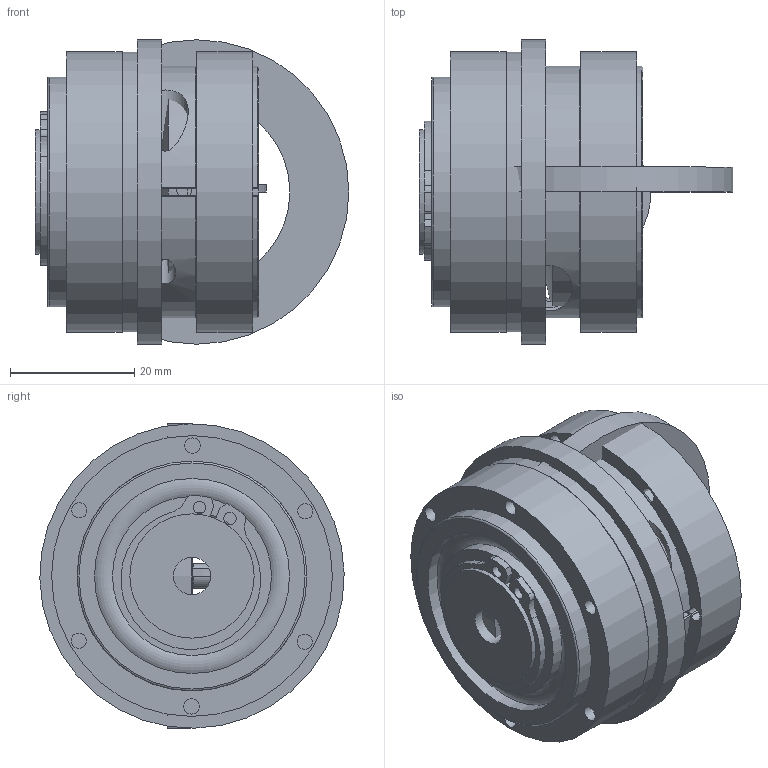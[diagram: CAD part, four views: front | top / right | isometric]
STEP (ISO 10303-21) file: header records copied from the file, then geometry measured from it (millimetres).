
FILE_DESCRIPTION( ( 'Unknown' ), '1' );
FILE_NAME( 'C:/Dokumente und Einstellungen/Sven/Desktop/hp kbk/KBK L-K-7.stp', 'Unknown', ( 'Unknown' ), ( 'Unknown' ), 'XStep 1.0', 'Unknown', ' ' );
FILE_SCHEMA( ( 'automotive_design' ) );
Length unit declared in the file: millimetre
Products named in the file (13): Assem1; Assem2; Assem3; ball_bearing_-_61904_0_01_0; ball_bearing_-_61904_0_02_0; ball_bearing_-_61904_0_03_0; Zylinderschraube DIN 912_5; Druckring 10_0; Flansch L-LL10_0; a_20_0; L-K-10 Grundteil_0; Klemmnabe 7-10_0; Stellring 10_0
Bounding box: 50.5 x 48.99 x 49 mm (x, y, z)
Volume: 93599.6 mm3; surface area: 62031.1 mm2
Topology: 24 solids, 24 shells, 280 faces, 604 edges, 394 vertices
Faces by surface type: plane 128, cylinder 106, torus 27, cone 19
Full cylindrical faces by diameter (mm): 2 x4, 2.459 x16, 3.242 x2, 4 x3, 4.2 x2, 6 x2, 7 x3, 7.3 x2, 19 x2, 20 x7, 22 x2, 24 x4, 25 x2, 25.6 x6, 29 x2, 29.993 x2, 31.4 x6, 37 x5, 38 x2, 40 x2, 45 x2, 45.2 x2, 49 x2
Entity records: 3736 total; most frequent: CARTESIAN_POINT 826, DIRECTION 560, ORIENTED_EDGE 416, AXIS2_PLACEMENT_3D 244, EDGE_LOOP 212, EDGE_CURVE 208, FACE_OUTER_BOUND 170, VERTEX_POINT 166
